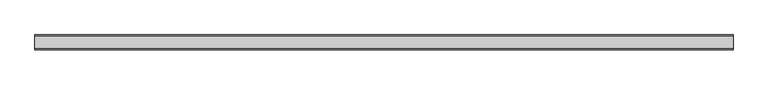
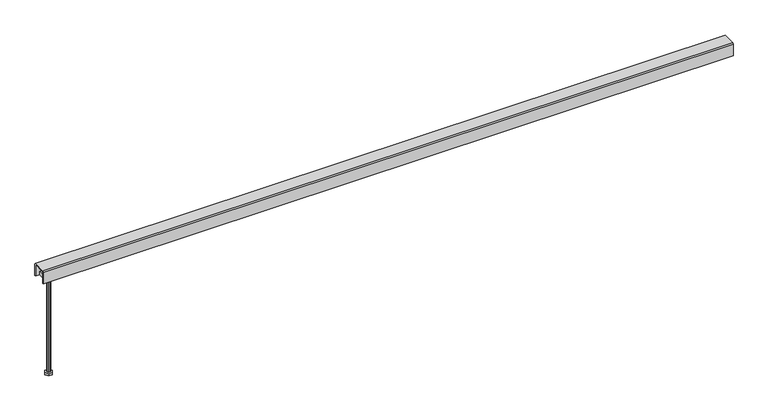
"""IFC4 building model written with IfcOpenShell, lengths in millimetres: proxy geometry, Beared-Hanger : BearedHanger."""

from ifc_helpers import new_model, si_unit, frame, origin, place, context, project, spatial, polyline, outline, extrude, source, transform, mapped, element, save


def mechanical_equipment_50cd52de(model_context):
    return source(origin(), model_context, "Body", "SweptSolid", [
        extrude(outline(polyline([(-932.9190063, 0.0), (-927.9190063, 8.659668), (-917.9190063, 8.659668), (-912.9190063, 0.0), (-917.9190063, -8.659668), (-927.9190063, -8.659668), (-932.9190063, 0.0)])), frame((0.0, 0.0, -1091.29766), z_axis=(0.0, 0.0, 1.0), x_axis=(1.0, 0.0, 0.0)), (0.0, 0.0, 1.0), 6.6101074),
        extrude(outline(polyline([(-908.0105591, 16.7883301), (-908.0105591, -17.3962402), (-937.8274536, -17.3962402), (-937.8274536, 16.7883301), (-908.0105591, 16.7883301)])), frame((0.0, 0.0, -808.5397865), z_axis=(0.0, 0.0, 1.0), x_axis=(1.0, 0.0, 0.0)), (0.0, 0.0, 1.0), 10.0),
        extrude(outline(polyline([(-922.9190063, 5.0), (-919.3838501, 3.5351562), (-917.9190063, 0.0), (-919.3838501, -3.5351563), (-922.9190063, -5.0), (-926.4541626, -3.5351563), (-927.9196167, 0.0), (-926.4541626, 3.5351562), (-922.9190063, 5.0)])), frame((0.0, 0.0, -1084.6875526), z_axis=(0.0, 0.0, 1.0), x_axis=(1.0, 0.0, 0.0)), (0.0, 0.0, 1.0), 276.1477661),
        extrude(outline(polyline([(-17.8259277, -772.1243812), (17.1740723, -772.1243812), (19.6740723, -774.624076), (19.6740723, -808.5397865), (16.7883301, -808.5397865), (16.7883301, -775.1242591), (-17.3962402, -775.1242591), (-17.3962402, -808.5397865), (-20.3259277, -808.5397865), (-20.3259277, -774.624076), (-17.8259277, -772.1243812)])), frame((-949.1775513, 0.0, 0.0), z_axis=(1.0, 0.0, 0.0), x_axis=(0.0, 1.0, 0.0)), (0.0, 0.0, 1.0), 1898.3551025),
    ])


if __name__ == "__main__":
    model = new_model("IFC4")
    model_context = context("Model", 3, world=origin())
    ifc_project = project(units=[si_unit("LENGTHUNIT", "METRE", prefix="MILLI")], contexts=[model_context])
    site = spatial("IfcSite", under=ifc_project)
    building = spatial("IfcBuilding", under=site)
    placement = place(None, origin())
    mechanical_equipment_shape = mechanical_equipment_50cd52de(model_context)
    element("IfcBuildingElementProxy", 1, Name="Beared-Hanger : BearedHanger", ObjectType="Beared-Hanger : BearedHanger", at=placement, inside=building, context=model_context, shape_type="MappedRepresentation", body=[
        mapped(mechanical_equipment_shape, transform((0.0, 0.0, 0.0), x_axis=(1.0, 0.0, 0.0), y_axis=(0.0, 1.0, 0.0), z_axis=(0.0, 0.0, 1.0))),
    ])
    save(model, "model.ifc")
